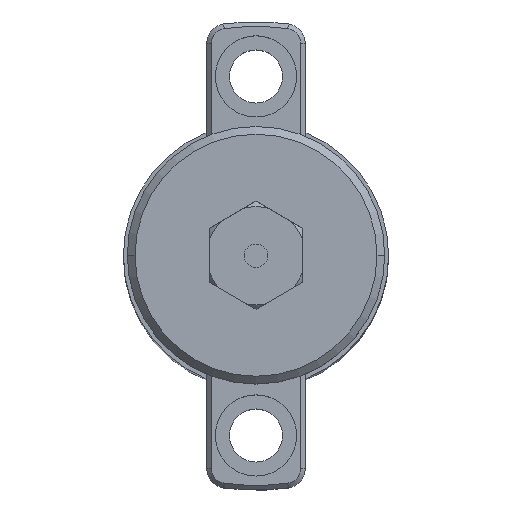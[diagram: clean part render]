
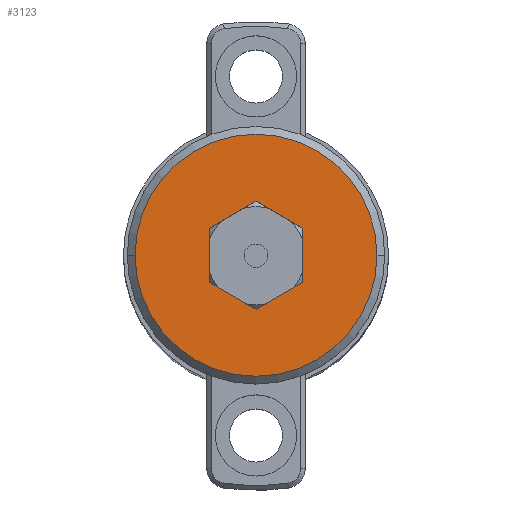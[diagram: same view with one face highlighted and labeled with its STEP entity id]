
A CAD part, top view. The second image highlights one B-rep face of the part: STEP entity #3123.
In plain terms, the highlighted planar face has unit normal (0, 0, 1).
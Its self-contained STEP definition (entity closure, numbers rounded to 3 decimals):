
#116 = CARTESIAN_POINT ( 'NONE',  ( 0., 6.928, 0. ) ) ;
#602 = DIRECTION ( 'NONE',  ( -0.866, 0.5, 0. ) ) ;
#954 = CIRCLE ( 'NONE', #13227, 15.5 ) ;
#966 = DIRECTION ( 'NONE',  ( 0., -1., 0. ) ) ;
#1310 = VECTOR ( 'NONE', #11751, 1000. ) ;
#1447 = VERTEX_POINT ( 'NONE', #7174 ) ;
#1651 = EDGE_CURVE ( 'NONE', #5839, #10352, #1796, .T. ) ;
#1767 = CARTESIAN_POINT ( 'NONE',  ( -15.5, 0., 0. ) ) ;
#1796 = LINE ( 'NONE', #8817, #4783 ) ;
#2665 = DIRECTION ( 'NONE',  ( 0., 0., 1. ) ) ;
#2813 = VERTEX_POINT ( 'NONE', #8193 ) ;
#3123 = ADVANCED_FACE ( 'NONE', ( #11545, #11142 ), #11526, .F. ) ;
#3634 = VERTEX_POINT ( 'NONE', #10743 ) ;
#3777 = EDGE_CURVE ( 'NONE', #12810, #3634, #954, .T. ) ;
#3893 = DIRECTION ( 'NONE',  ( 0., 0., -1. ) ) ;
#4105 = AXIS2_PLACEMENT_3D ( 'NONE', #10300, #2665, #11579 ) ;
#4120 = CARTESIAN_POINT ( 'NONE',  ( 6., -3.464, 0. ) ) ;
#4123 = CARTESIAN_POINT ( 'NONE',  ( 0., 6.928, 0. ) ) ;
#4303 = ORIENTED_EDGE ( 'NONE', *, *, #5590, .F. ) ;
#4783 = VECTOR ( 'NONE', #11366, 1000. ) ;
#4841 = LINE ( 'NONE', #13281, #8243 ) ;
#5317 = LINE ( 'NONE', #8621, #11688 ) ;
#5533 = VECTOR ( 'NONE', #12947, 1000. ) ;
#5590 = EDGE_CURVE ( 'NONE', #2813, #6054, #4841, .T. ) ;
#5839 = VERTEX_POINT ( 'NONE', #15023 ) ;
#5873 = CARTESIAN_POINT ( 'NONE',  ( 0., 0., 0. ) ) ;
#6054 = VERTEX_POINT ( 'NONE', #116 ) ;
#6295 = ORIENTED_EDGE ( 'NONE', *, *, #3777, .T. ) ;
#6991 = LINE ( 'NONE', #4120, #13742 ) ;
#7067 = AXIS2_PLACEMENT_3D ( 'NONE', #12625, #3893, #12786 ) ;
#7172 = DIRECTION ( 'NONE',  ( 1., 0., 0. ) ) ;
#7174 = CARTESIAN_POINT ( 'NONE',  ( -6., 3.464, 0. ) ) ;
#7242 = EDGE_LOOP ( 'NONE', ( #6295, #11800 ) ) ;
#7993 = ORIENTED_EDGE ( 'NONE', *, *, #15281, .F. ) ;
#8193 = CARTESIAN_POINT ( 'NONE',  ( 6., 3.464, 0. ) ) ;
#8243 = VECTOR ( 'NONE', #602, 1000. ) ;
#8541 = LINE ( 'NONE', #15461, #5533 ) ;
#8621 = CARTESIAN_POINT ( 'NONE',  ( -6., 3.464, 0. ) ) ;
#8817 = CARTESIAN_POINT ( 'NONE',  ( -6., -3.464, 0. ) ) ;
#9655 = EDGE_LOOP ( 'NONE', ( #13216, #4303, #7993, #14591, #15109, #14353 ) ) ;
#10300 = CARTESIAN_POINT ( 'NONE',  ( 0., 0., 0. ) ) ;
#10301 = EDGE_CURVE ( 'NONE', #10352, #11441, #8541, .T. ) ;
#10352 = VERTEX_POINT ( 'NONE', #13001 ) ;
#10743 = CARTESIAN_POINT ( 'NONE',  ( 15.5, 0., 0. ) ) ;
#11142 = FACE_OUTER_BOUND ( 'NONE', #7242, .T. ) ;
#11277 = EDGE_CURVE ( 'NONE', #1447, #5839, #5317, .T. ) ;
#11366 = DIRECTION ( 'NONE',  ( 0.866, -0.5, 0. ) ) ;
#11441 = VERTEX_POINT ( 'NONE', #12647 ) ;
#11526 = PLANE ( 'NONE',  #7067 ) ;
#11545 = FACE_BOUND ( 'NONE', #9655, .T. ) ;
#11579 = DIRECTION ( 'NONE',  ( 1., 0., 0. ) ) ;
#11688 = VECTOR ( 'NONE', #966, 1000. ) ;
#11747 = DIRECTION ( 'NONE',  ( 0., 1., 0. ) ) ;
#11751 = DIRECTION ( 'NONE',  ( -0.866, -0.5, 0. ) ) ;
#11800 = ORIENTED_EDGE ( 'NONE', *, *, #16091, .T. ) ;
#12542 = CIRCLE ( 'NONE', #4105, 15.5 ) ;
#12625 = CARTESIAN_POINT ( 'NONE',  ( 0., 15.5, 0. ) ) ;
#12647 = CARTESIAN_POINT ( 'NONE',  ( 6., -3.464, 0. ) ) ;
#12786 = DIRECTION ( 'NONE',  ( -1., 0., 0. ) ) ;
#12810 = VERTEX_POINT ( 'NONE', #1767 ) ;
#12947 = DIRECTION ( 'NONE',  ( 0.866, 0.5, 0. ) ) ;
#13001 = CARTESIAN_POINT ( 'NONE',  ( 0., -6.928, 0. ) ) ;
#13216 = ORIENTED_EDGE ( 'NONE', *, *, #14211, .F. ) ;
#13227 = AXIS2_PLACEMENT_3D ( 'NONE', #5873, #14770, #7172 ) ;
#13281 = CARTESIAN_POINT ( 'NONE',  ( 6., 3.464, 0. ) ) ;
#13742 = VECTOR ( 'NONE', #11747, 1000. ) ;
#14211 = EDGE_CURVE ( 'NONE', #6054, #1447, #14816, .T. ) ;
#14353 = ORIENTED_EDGE ( 'NONE', *, *, #11277, .F. ) ;
#14591 = ORIENTED_EDGE ( 'NONE', *, *, #10301, .F. ) ;
#14770 = DIRECTION ( 'NONE',  ( 0., 0., 1. ) ) ;
#14816 = LINE ( 'NONE', #4123, #1310 ) ;
#15023 = CARTESIAN_POINT ( 'NONE',  ( -6., -3.464, 0. ) ) ;
#15109 = ORIENTED_EDGE ( 'NONE', *, *, #1651, .F. ) ;
#15281 = EDGE_CURVE ( 'NONE', #11441, #2813, #6991, .T. ) ;
#15461 = CARTESIAN_POINT ( 'NONE',  ( 0., -6.928, 0. ) ) ;
#16091 = EDGE_CURVE ( 'NONE', #3634, #12810, #12542, .T. ) ;
